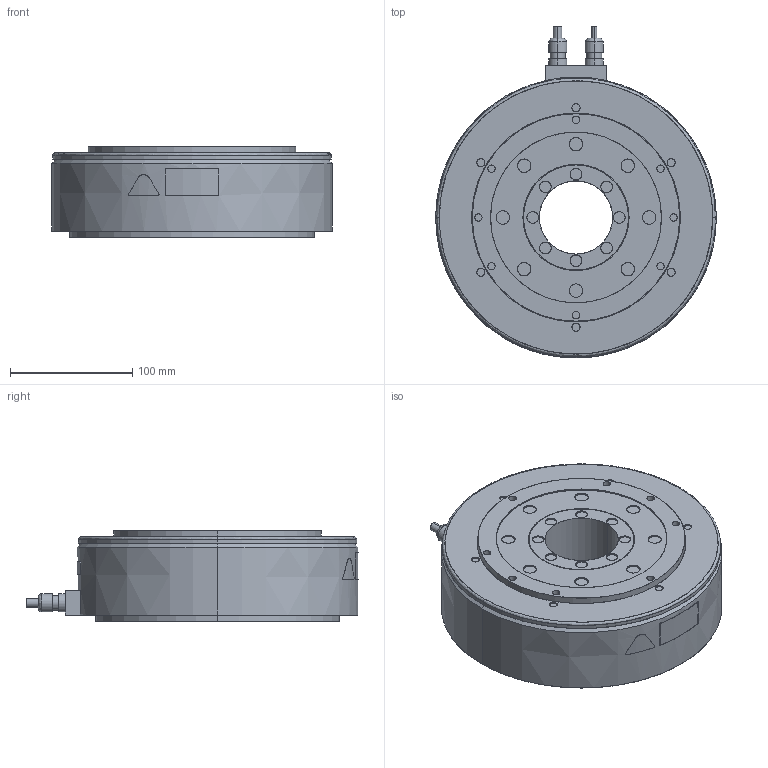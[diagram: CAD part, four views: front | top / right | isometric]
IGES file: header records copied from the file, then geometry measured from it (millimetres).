
Start section: SolidWorks IGES file using analytic representation for surfaces
Bounding box: 230 x 272.1 x 74 mm (x, y, z)
Surface area: 153859.4 mm2 (no closed solid volume)
Topology: 0 solids, 0 shells, 234 faces, 5640 edges, 5640 vertices
Faces by surface type: revolution 142, bspline 92
